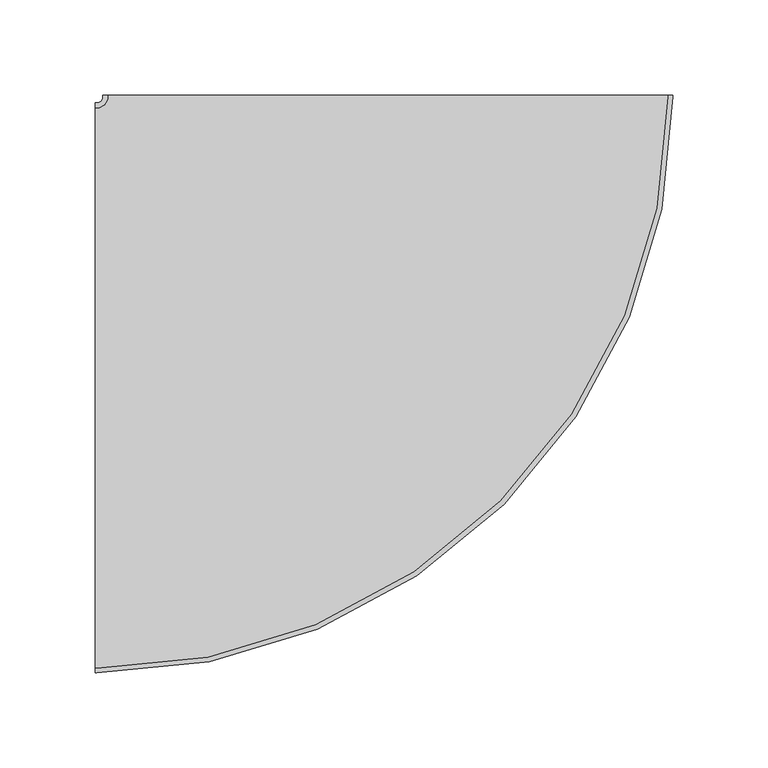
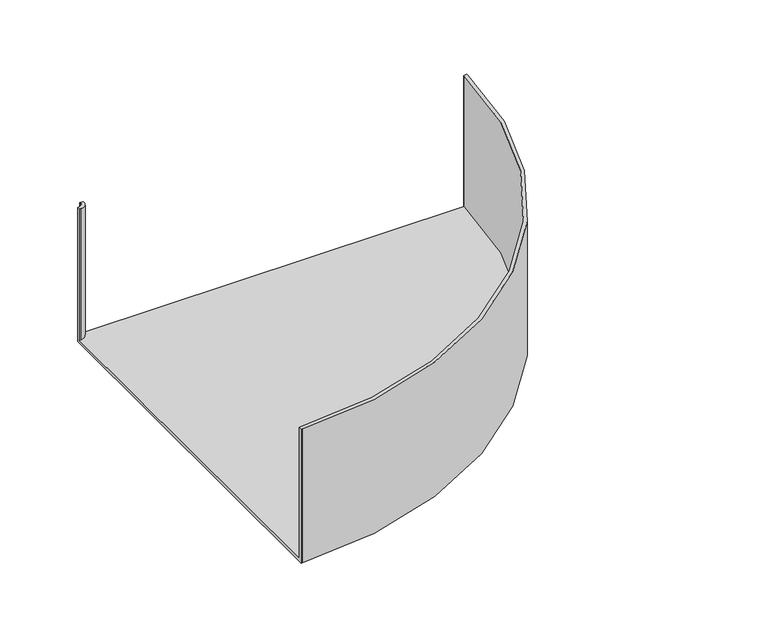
"""IFC4 building model written with IfcOpenShell, lengths in millimetres: cable carrier fitting geometry, BAKS_Mesh horizontal bend : KKSZ_H110."""

from ifc_helpers import new_model, si_unit, frame, origin, place, context, project, spatial, polyline, circle_curve, source, transform, mapped, element, save
from ifc_brep_helpers import plane_surface, cylinder_surface, revolved_surface, advanced_brep


def cable_carrier_fitting_d664f731(model_context):
    return source(origin(), model_context, "Body", "AdvancedBrep", [
        advanced_brep(
        [(-154.175, -150.0, -55.0), (-154.175, -150.0, 55.0), (-154.175, -147.46, 55.0), (-154.175, -147.46, -52.46), (-154.175, 147.46, -52.46), (-154.175, 147.46, 55.0), (-154.175, 150.0, 55.0), (-154.175, 150.0, -55.0), (150.0, 154.175, -55.0), (-150.0, 154.175, -55.0), (-150.0, 154.175, 55.0), (-147.46, 154.175, 55.0), (-147.46, 154.175, -52.46), (147.46, 154.175, -52.46), (147.46, 154.175, 55.0), (150.0, 154.175, 55.0), (-153.175, -150.0, -55.0), (-153.175, -150.0, 55.0), (150.0, 153.175, 55.0), (147.46, 153.175, 55.0), (-153.175, -147.46, 55.0), (-153.175, -147.46, -52.46), (147.46, 153.175, -52.46), (-147.46, 153.175, -52.46), (-153.175, 147.46, -52.46), (-153.175, 147.46, 55.0), (-147.46, 153.175, 55.0), (-150.0, 153.175, 55.0), (-153.175, 150.0, 55.0), (-153.175, 150.0, -55.0), (-150.0, 153.175, -55.0), (150.0, 153.175, -55.0)],
        [
            (0, 1),
            (1, 2),
            (2, 3),
            (3, 4),
            (4, 5),
            (5, 6),
            (6, 7),
            (7, 0),
            (8, 9),
            (9, 10),
            (10, 11),
            (11, 12),
            (12, 13),
            (13, 14),
            (14, 15),
            (15, 8),
            (0, 16),
            (16, 17),
            (17, 1),
            (17, 18, circle_curve(frame((-153.175, 153.175, 55.0), z_axis=(0.0, 0.0, 1.0), x_axis=(0.0, -1.0, 0.0)), 303.175)),
            (18, 15),
            (14, 19),
            (19, 20, circle_curve(frame((-153.175, 153.175, 55.0), z_axis=(0.0, 0.0, -1.0), x_axis=(0.0, -1.0, 0.0)), 300.635)),
            (20, 2),
            (20, 21),
            (21, 3),
            (21, 22, circle_curve(frame((-153.175, 153.175, -52.46), z_axis=(0.0, 0.0, 1.0), x_axis=(0.0, -1.0, 0.0)), 300.635)),
            (22, 13),
            (12, 23),
            (23, 24, circle_curve(frame((-153.175, 153.175, -52.46), z_axis=(0.0, 0.0, -1.0), x_axis=(0.0, -1.0, 0.0)), 5.715)),
            (24, 4),
            (24, 25),
            (25, 5),
            (25, 26, circle_curve(frame((-153.175, 153.175, 55.0), z_axis=(0.0, 0.0, 1.0), x_axis=(0.0, -1.0, 0.0)), 5.715)),
            (26, 11),
            (10, 27),
            (27, 28, circle_curve(frame((-153.175, 153.175, 55.0), z_axis=(0.0, 0.0, -1.0), x_axis=(0.0, -1.0, 0.0)), 3.175)),
            (28, 6),
            (28, 29),
            (29, 7),
            (29, 30, circle_curve(frame((-153.175, 153.175, -55.0), z_axis=(0.0, 0.0, 1.0), x_axis=(0.0, -1.0, 0.0)), 3.175)),
            (30, 9),
            (8, 31),
            (31, 16, circle_curve(frame((-153.175, 153.175, -55.0), z_axis=(0.0, 0.0, -1.0), x_axis=(0.0, -1.0, 0.0)), 303.175)),
            (31, 18),
            (19, 22),
            (23, 26),
            (27, 30),
        ],
        [
            plane_surface(frame((-154.175, 0.0, 0.0), z_axis=(-1.0, -4.906741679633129e-12, 0.0), x_axis=(0.0, 0.0, 1.0))),
            plane_surface(frame((0.0, 154.175, 0.0), z_axis=(0.0, 1.0, 0.0), x_axis=(0.0, 0.0, 1.0))),
            plane_surface(frame((-154.175, -150.0, -55.0), z_axis=(4.940581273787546e-12, -1.0, 0.0), x_axis=(1.0, 4.940581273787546e-12, 0.0))),
            plane_surface(frame((-154.175, -150.0, 55.0), z_axis=(0.0, 0.0, 1.0), x_axis=(1.0, 4.940581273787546e-12, 0.0))),
            plane_surface(frame((-154.175, -147.46, 55.0), z_axis=(-4.889821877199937e-12, 1.0, 0.0), x_axis=(1.0, 4.889821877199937e-12, 0.0))),
            plane_surface(frame((-154.175, -147.46, -52.46), z_axis=(0.0, 0.0, 1.0), x_axis=(1.0, 4.906741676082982e-12, 0.0))),
            plane_surface(frame((-154.175, 147.46, -52.46), z_axis=(4.906741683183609e-12, -1.0, 0.0), x_axis=(1.0, 4.906741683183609e-12, 0.0))),
            plane_surface(frame((-154.175, 147.46, 55.0), z_axis=(0.0, 0.0, 1.0), x_axis=(1.0, 4.906741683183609e-12, 0.0))),
            plane_surface(frame((-154.175, 150.0, 55.0), z_axis=(-4.906741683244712e-12, 1.0, 0.0), x_axis=(1.0, 4.906741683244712e-12, 0.0))),
            plane_surface(frame((-154.175, 150.0, -55.0), z_axis=(0.0, 0.0, -1.0), x_axis=(1.0, 4.906741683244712e-12, 0.0))),
            cylinder_surface(frame((-153.175, 153.175, 0.0), z_axis=(0.0, 0.0, 1.0), x_axis=(0.0, -1.0, 0.0)), 303.175),
            revolved_surface(polyline([(-153.175, -147.45999999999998, 55.0), (-153.175, -147.45999999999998, -52.46)]), (-153.175, 153.175, 0.0), (0.0, 0.0, 1.0)),
            cylinder_surface(frame((-153.175, 153.175, 0.0), z_axis=(0.0, 0.0, 1.0), x_axis=(0.0, -1.0, 0.0)), 5.715),
            revolved_surface(polyline([(-153.175, 150.0, 55.0), (-153.175, 150.0, -55.0)]), (-153.175, 153.175, 0.0), (0.0, 0.0, 1.0)),
            plane_surface(frame((150.0, 153.175, -55.0), z_axis=(1.0, 0.0, 0.0), x_axis=(0.0, 1.0, 0.0))),
            plane_surface(frame((147.46, 153.175, 55.0), z_axis=(-1.0, 0.0, 0.0), x_axis=(0.0, 1.0, 0.0))),
            plane_surface(frame((-147.46, 153.175, -52.46), z_axis=(1.0, 0.0, 0.0), x_axis=(0.0, 1.0, 0.0))),
            plane_surface(frame((-150.0, 153.175, 55.0), z_axis=(-1.0, 0.0, 0.0), x_axis=(0.0, 1.0, 0.0))),
        ],
        [
            (0, [[1, 2, 3, 4, 5, 6, 7, 8]]),
            (1, [[9, 10, 11, 12, 13, 14, 15, 16]]),
            (2, [[-1, 17, 18, 19]]),
            (3, [[-2, -19, 20, 21, -15, 22, 23, 24]]),
            (4, [[-3, -24, 25, 26]]),
            (5, [[-4, -26, 27, 28, -13, 29, 30, 31]]),
            (6, [[-5, -31, 32, 33]]),
            (7, [[-6, -33, 34, 35, -11, 36, 37, 38]]),
            (8, [[-7, -38, 39, 40]]),
            (9, [[-8, -40, 41, 42, -9, 43, 44, -17]]),
            (10, [[-20, -18, -44, 45]]),
            (11, [[-27, -25, -23, 46]]),
            (12, [[-34, -32, -30, 47]]),
            (13, [[-41, -39, -37, 48]]),
            (14, [[-45, -43, -16, -21]]),
            (15, [[-46, -22, -14, -28]]),
            (16, [[-47, -29, -12, -35]]),
            (17, [[-48, -36, -10, -42]]),
        ],
    ),
    ])


if __name__ == "__main__":
    model = new_model("IFC4")
    model_context = context("Model", 3, world=origin())
    ifc_project = project(units=[si_unit("LENGTHUNIT", "METRE", prefix="MILLI")], contexts=[model_context])
    site = spatial("IfcSite", under=ifc_project)
    building = spatial("IfcBuilding", under=site)
    placement = place(None, origin())
    cable_carrier_fitting_shape = cable_carrier_fitting_d664f731(model_context)
    element("IfcCableCarrierFitting", 1, ObjectType="BAKS_Mesh horizontal bend : KKSZ_H110", at=placement, inside=building, context=model_context, shape_type="MappedRepresentation", body=[
        mapped(cable_carrier_fitting_shape, transform((0.0, 0.0, 0.0), x_axis=(1.0, 0.0, 0.0), y_axis=(0.0, 1.0, 0.0), z_axis=(0.0, 0.0, 1.0))),
    ])
    save(model, "model.ifc")
